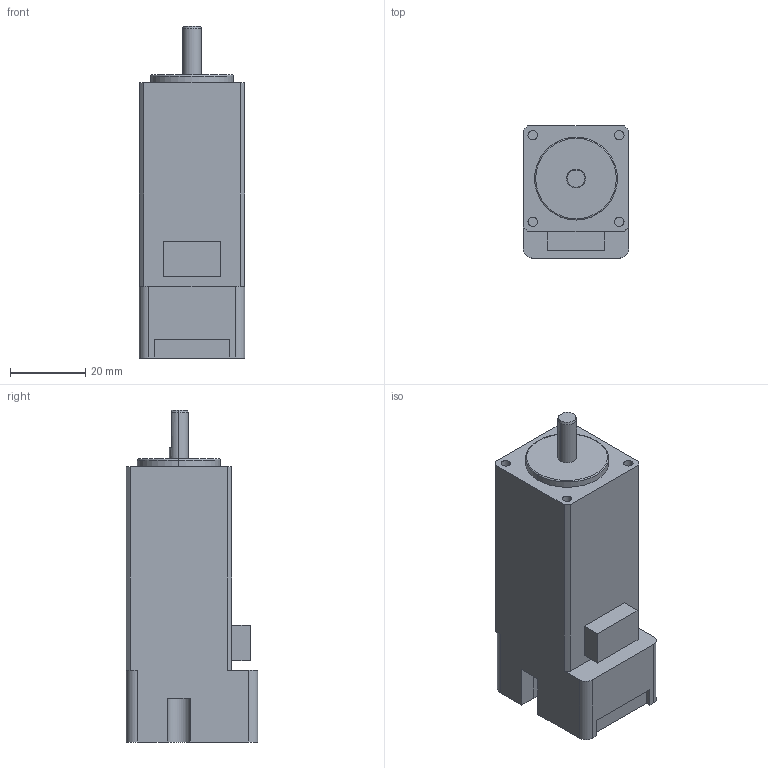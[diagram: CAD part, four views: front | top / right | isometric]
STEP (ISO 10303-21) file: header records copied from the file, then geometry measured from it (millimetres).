
FILE_DESCRIPTION (( 'STEP AP203' ), '1' );
FILE_NAME ('P-PMSB-U28DA3E-NL_3D.STEP', '2020-02-04T02:03:42', ( '' ), ( '' ), 'SwSTEP 2.0', 'SolidWorks 2018', '' );
FILE_SCHEMA (( 'CONFIG_CONTROL_DESIGN' ));
Length unit declared in the file: millimetre
Products named in the file (1): P-PMSB-U28DA3E-NL_3D
Bounding box: 28 x 35 x 88.1 mm (x, y, z)
Volume: 61305.9 mm3; surface area: 11948.9 mm2
Topology: 2 solids, 2 shells, 62 faces, 152 edges, 100 vertices
Faces by surface type: plane 34, cylinder 23, cone 3, torus 2
Entity records: 1916 total; most frequent: DIRECTION 331, CARTESIAN_POINT 321, ORIENTED_EDGE 304, EDGE_CURVE 152, AXIS2_PLACEMENT_3D 118, VERTEX_POINT 100, LINE 95, VECTOR 95
